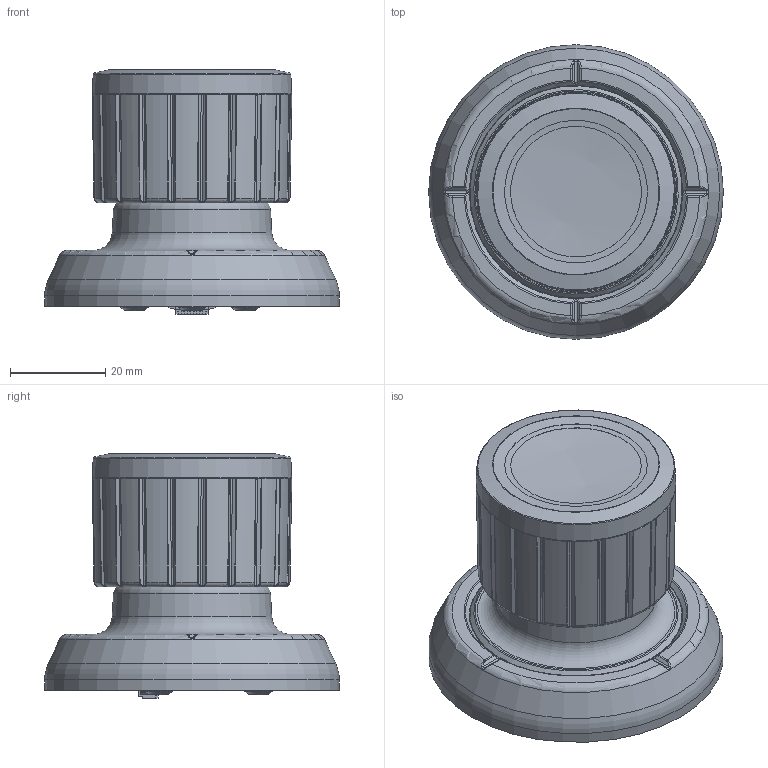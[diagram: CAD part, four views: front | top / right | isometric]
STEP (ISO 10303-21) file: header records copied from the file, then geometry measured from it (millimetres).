
FILE_DESCRIPTION(/* description */ (''),/* implementation_level */ '2;1');
FILE_NAME(/* name */ 'S:\Entwicklung\01_CAD-Daten\01_AIDATA-GT\1_1_Joysticks\SK225\Zusammenstellungen\STEP\225-013.stp',/* time_stamp */ '2025-04-01T15:27:29+02:00',/* author */ ('jub'),/* organization */ (''),/* preprocessor_version */ 'ST-DEVELOPER v18.1',/* originating_system */ 'Autodesk Inventor 2021',/* authorisation */ '');
FILE_SCHEMA (('AUTOMOTIVE_DESIGN { 1 0 10303 214 3 1 1 }'));
Length unit declared in the file: millimetre
Products named in the file (1): 225-013_Shrinkwrap_1
Bounding box: 62 x 62 x 51.45 mm (x, y, z)
Volume: 42501.6 mm3; surface area: 54730.5 mm2
Topology: 17 solids, 17 shells, 4095 faces, 10820 edges, 6672 vertices
Faces by surface type: plane 1749, bspline 822, cylinder 609, cone 420, torus 332, sphere 163
Full cylindrical faces by diameter (mm): 0.4 x1, 0.55 x4, 0.7 x5, 0.8 x4, 2 x2, 2.4 x4, 2.5 x3, 2.8 x3, 3.1 x3, 3.15 x4, 3.2 x10, 3.5 x3, 4.5 x3, 6.1 x3, 7 x1, 10 x1, 12 x1, 12.5 x1, 14.5 x1, 17.5 x1, 18.4 x1, 19 x1, 19.3 x1, 20.5 x2, 22 x1, 22.2 x1, 23 x1, 24.85 x2, 25 x1, 25.8 x1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
Entity records: 149892 total; most frequent: CARTESIAN_POINT 54121, ORIENTED_EDGE 21404, DIRECTION 18191, EDGE_CURVE 10702, VERTEX_POINT 6684, AXIS2_PLACEMENT_3D 6656, LINE 4879, VECTOR 4879
